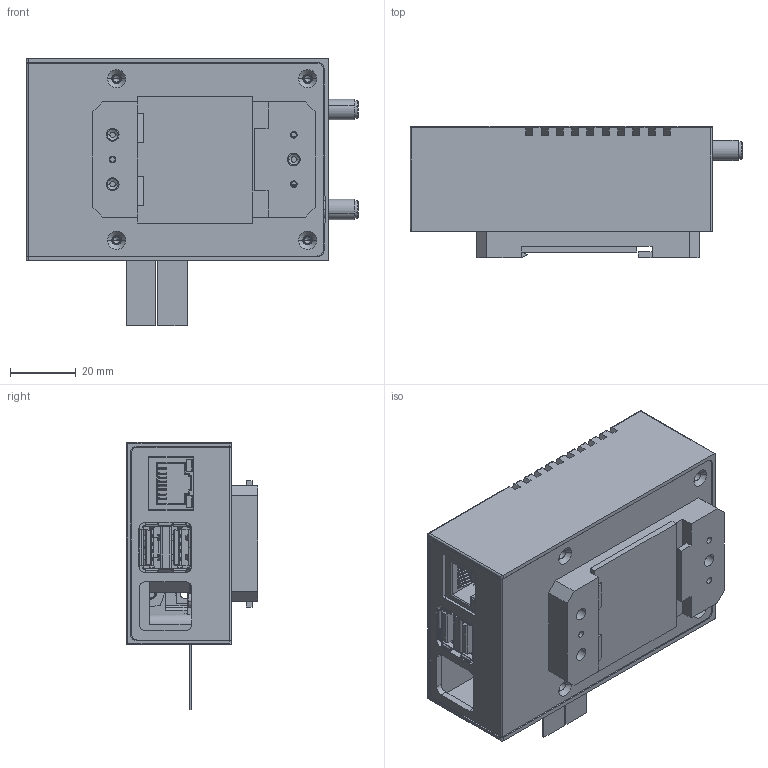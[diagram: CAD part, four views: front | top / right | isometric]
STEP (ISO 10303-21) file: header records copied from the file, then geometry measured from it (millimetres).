
FILE_DESCRIPTION (( 'STEP AP214' ), '1' );
FILE_NAME ('LubanCat 1 俋褲3D恅璃.STEP', '2023-06-06T06:48:14', ( '' ), ( '' ), 'SwSTEP 2.0', 'SolidWorks 2021', '' );
FILE_SCHEMA (( 'AUTOMOTIVE_DESIGN' ));
Length unit declared in the file: millimetre
Products named in the file (8): 齬盄聆彸 20230529; 毞盄釱赽; LubanCat 1 PCB 錨璃; LubanCat 1 俋褲3D恅璃; LubanCat 1 菁裔 羲耀; 35mm呿蹋絳寢縐諶67.5x35; AXE630124; LubanCat 1 PCB 階裔 羲耀
Assembly tree (10 placements, depth 2):
  LubanCat 1 俋褲3D恅璃
    LubanCat 1 PCB 錨璃
    LubanCat 1 PCB 階裔 羲耀
    LubanCat 1 菁裔 羲耀
    35mm呿蹋絳寢縐諶67.5x35
    毞盄釱赽  x2
    AXE630124  x2
    齬盄聆彸 20230529  x2
Bounding box: 100.8 x 39.9 x 81.32 mm (x, y, z)
Volume: 95401.5 mm3; surface area: 85290 mm2
Topology: 100 solids, 102 shells, 8698 faces, 23418 edges, 15062 vertices
Faces by surface type: plane 6553, cylinder 1559, bspline 407, cone 128, torus 28, sphere 23
Entity records: 368568 total; most frequent: CARTESIAN_POINT 71141, ORIENTED_EDGE 47360, DIRECTION 40071, EDGE_CURVE 23681, VECTOR 18757, LINE 18757, VERTEX_POINT 15303, AXIS2_PLACEMENT_3D 10657
